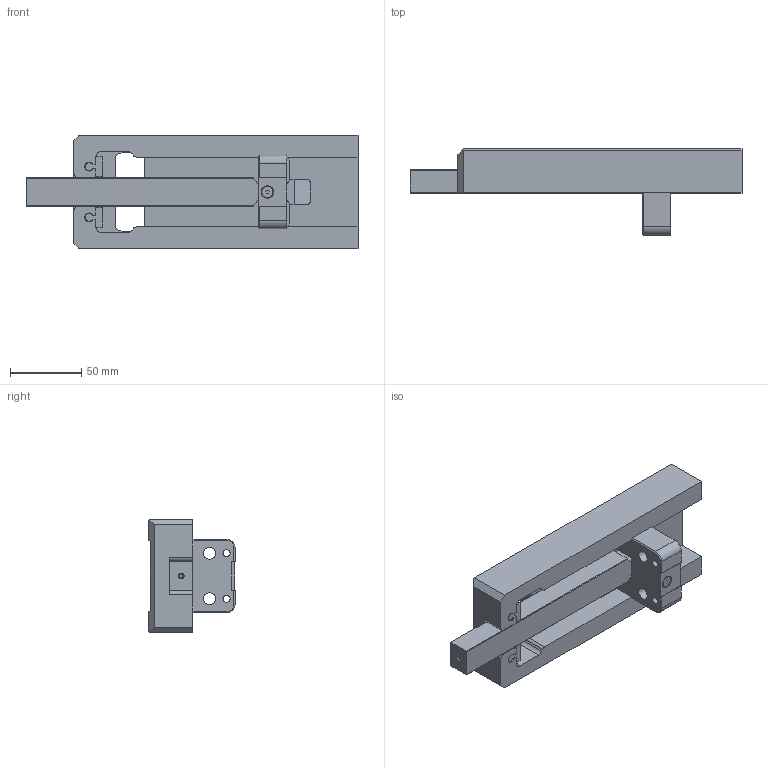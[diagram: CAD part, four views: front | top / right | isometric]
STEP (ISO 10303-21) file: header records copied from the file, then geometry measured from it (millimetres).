
FILE_DESCRIPTION (( 'STEP AP203' ), '1' );
FILE_NAME ('SA-110-200-00.step', '2015-06-16T06:00:51', ( '' ), ( '' ), 'SwSTEP 2.0', 'SolidWorks 2015', '' );
FILE_SCHEMA (( 'CONFIG_CONTROL_DESIGN' ));
Length unit declared in the file: millimetre
Products named in the file (2): SA-110-200-00
Bounding box: 233.64 x 60.6 x 80 mm (x, y, z)
Surface area: 80194.5 mm2 (no closed solid volume)
Topology: 0 solids, 9 shells, 136 faces, 483 edges, 346 vertices
Faces by surface type: plane 95, cylinder 33, cone 8
Full cylindrical faces by diameter (mm): 1.3 x2, 2.5 x1, 5 x2, 5.5 x2, 7.64 x1, 8.5 x2
Entity records: 5222 total; most frequent: CARTESIAN_POINT 985, DIRECTION 827, ORIENTED_EDGE 778, EDGE_CURVE 467, VECTOR 359, LINE 359, VERTEX_POINT 344, AXIS2_PLACEMENT_3D 234
